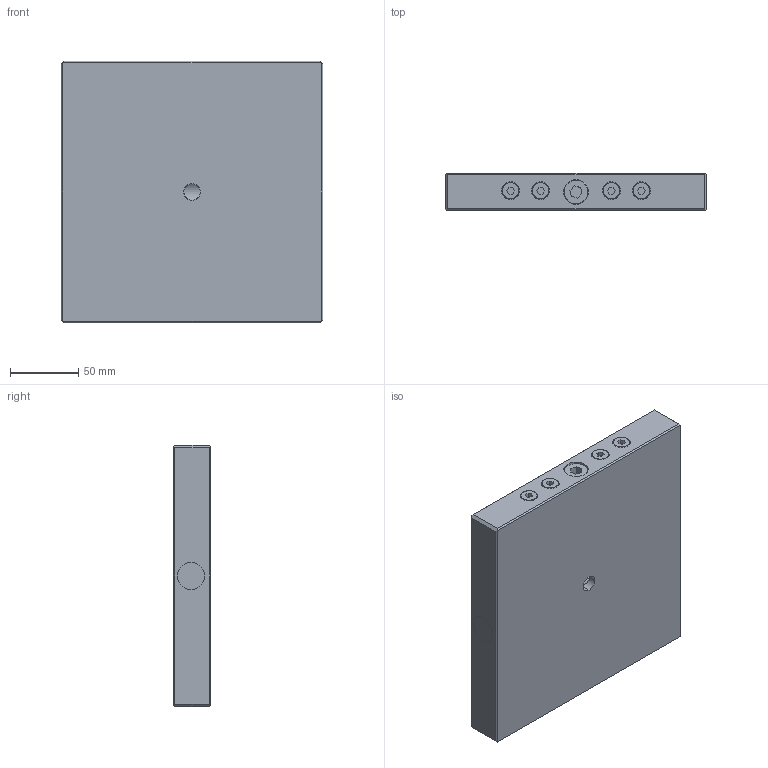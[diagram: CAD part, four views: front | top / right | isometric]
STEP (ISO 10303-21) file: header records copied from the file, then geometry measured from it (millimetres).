
FILE_DESCRIPTION (( 'STEP AP214' ), '1' );
FILE_NAME ('45748.STEP', '2022-06-01T06:59:18', ( '' ), ( '' ), 'SwSTEP 2.0', 'SolidWorks 2021', '' );
FILE_SCHEMA (( 'AUTOMOTIVE_DESIGN' ));
Length unit declared in the file: millimetre
Products named in the file (1): 45748
Bounding box: 192 x 27 x 192 mm (x, y, z)
Volume: 826888.3 mm3; surface area: 143278.9 mm2
Topology: 12 solids, 12 shells, 260 faces, 638 edges, 398 vertices
Faces by surface type: plane 116, cylinder 88, cone 40, torus 16
Entity records: 12740 total; most frequent: CARTESIAN_POINT 3566, ORIENTED_EDGE 1276, DIRECTION 1265, EDGE_CURVE 638, AXIS2_PLACEMENT_3D 455, VERTEX_POINT 398, VECTOR 355, LINE 355
